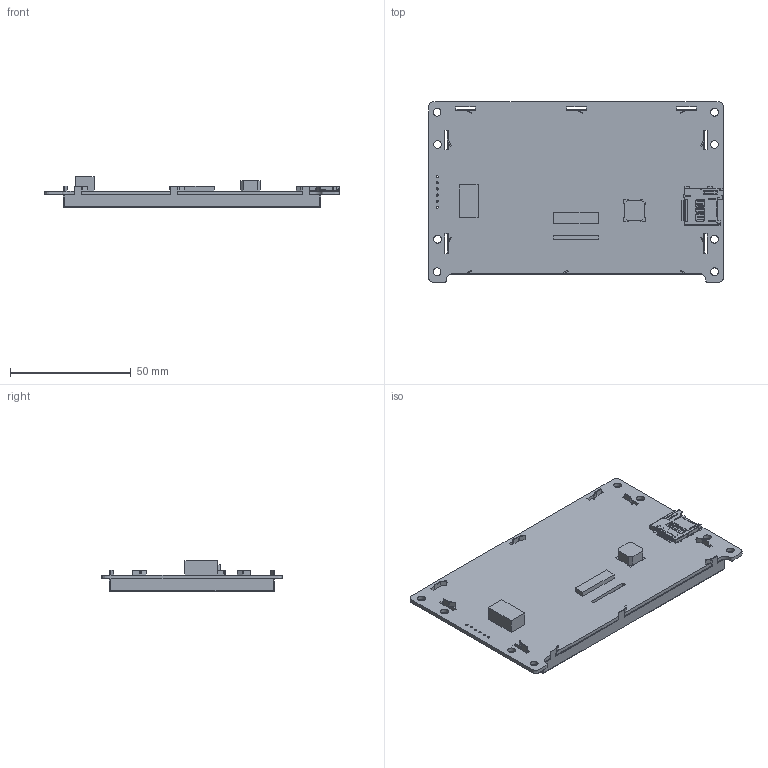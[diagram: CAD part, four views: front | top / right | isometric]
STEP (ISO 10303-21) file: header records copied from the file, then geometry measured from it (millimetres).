
FILE_DESCRIPTION(/* description */ (''),/* implementation_level */ '2;1');
FILE_NAME(/* name */ '',/* time_stamp */ '2023-06-14T14:18:44+08:00',/* author */ (''),/* organization */ (''),/* preprocessor_version */ 'ST-DEVELOPER v11',/* originating_system */ 'SIEMENS PLM Software NX 7.5',/* authorisation */ '');
FILE_SCHEMA (('AP203_CONFIGURATION_CONTROLLED_3D_DESIGN_OF_MECHANICAL_PARTS_AND_ASSEMBLIES_MIM_LF'));
Length unit declared in the file: millimetre
Products named in the file (1): SDWn043C33N
Bounding box: 121.9 x 74.7 x 12.8 mm (x, y, z)
Volume: 43192.6 mm3; surface area: 42586.8 mm2
Topology: 11 solids, 11 shells, 1135 faces, 3240 edges, 2103 vertices
Faces by surface type: plane 853, cylinder 280, cone 1, extrusion 1
Full cylindrical faces by diameter (mm): 0.889 x6, 3.2 x8
Entity records: 37235 total; most frequent: CARTESIAN_POINT 6626, ORIENTED_EDGE 6450, DIRECTION 6052, EDGE_CURVE 3225, VECTOR 2650, LINE 2649, VERTEX_POINT 2103, AXIS2_PLACEMENT_3D 1701
